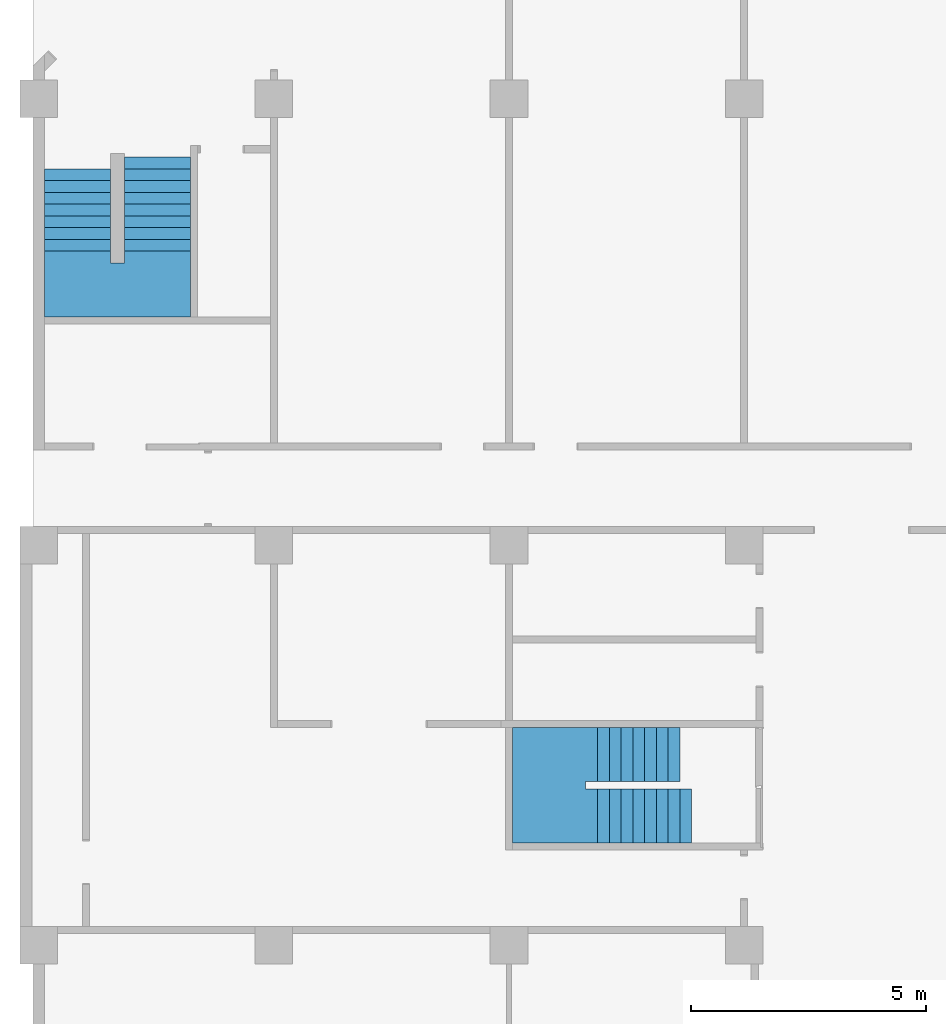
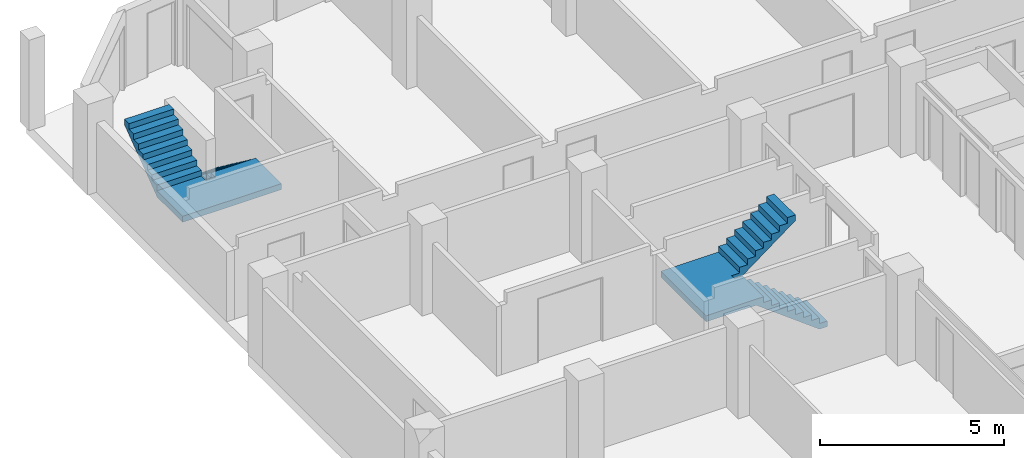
# One storey, part 8 of 9: 2 stairs.
"""IFC2X3 building model written with IfcOpenShell, lengths in millimetres."""

from ifc_helpers import new_model, entity, si_unit, converted_unit, derived_unit, money_unit, direction, frame, origin_with_axes, place, context, subcontext, project, spatial, faceted_brep, material, material_list, element, save


model = new_model("IFC2X3")

# Units and contexts
model_context = context("Model", 3, precision=0.01, world=origin_with_axes(), true_north=direction((0.0, 1.0)))
body_context = subcontext(model_context, "Body", "Model", "MODEL_VIEW")
ifc_project = project(units=[si_unit("LENGTHUNIT", "METRE", prefix="MILLI"), si_unit("AREAUNIT", "SQUARE_METRE"), si_unit("VOLUMEUNIT", "CUBIC_METRE"), converted_unit("PLANEANGLEUNIT", "DEGREE", entity("IfcPlaneAngleMeasure", 0.0174532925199), si_unit("PLANEANGLEUNIT", "RADIAN"), dimensions=[0, 0, 0, 0, 0, 0, 0]), si_unit("SOLIDANGLEUNIT", "STERADIAN"), money_unit("JPY"), converted_unit("TIMEUNIT", "Year", entity("IfcTimeMeasure", 31556926.0), si_unit("TIMEUNIT", "SECOND"), dimensions=[0, 0, 1, 0, 0, 0, 0]), si_unit("MASSUNIT", "GRAM", prefix="KILO"), si_unit("THERMODYNAMICTEMPERATUREUNIT", "DEGREE_CELSIUS"), si_unit("LUMINOUSINTENSITYUNIT", "LUMEN"), si_unit("ENERGYUNIT", "JOULE", prefix="MEGA"), derived_unit("THERMALCONDUCTANCEUNIT", [(si_unit("POWERUNIT", "WATT"), 1), (si_unit("LENGTHUNIT", "METRE"), -1), (si_unit("THERMODYNAMICTEMPERATUREUNIT", "KELVIN"), -1)]), derived_unit("SPECIFICHEATCAPACITYUNIT", [(si_unit("ENERGYUNIT", "JOULE"), 1), (si_unit("MASSUNIT", "GRAM", prefix="KILO"), -1), (si_unit("THERMODYNAMICTEMPERATUREUNIT", "KELVIN"), -1)]), derived_unit("MASSDENSITYUNIT", [(si_unit("MASSUNIT", "GRAM", prefix="KILO"), 1), (si_unit("VOLUMEUNIT", "CUBIC_METRE"), -1)])], contexts=[model_context])

# Site, building, storey
site_placement = place(None, origin_with_axes())
site = spatial("IfcSite", under=ifc_project, at=site_placement, Name="サイト", CompositionType="ELEMENT")
building_placement = place(site_placement, origin_with_axes())
building = spatial("IfcBuilding", under=site, at=building_placement, Name="建築", CompositionType="ELEMENT")
storey_placement = place(building_placement, origin_with_axes())
storey = spatial("IfcBuildingStorey", under=building, at=storey_placement, Name="1FL", CompositionType="ELEMENT", Elevation=0.0)

# Stairs
ifc_material = material(Name="コンクリート")
ifc_material_list = material_list([ifc_material, ifc_material, ifc_material])
stair_1_placement = place(storey_placement, frame((1825.0, 16757.5237799, 0.0), z_axis=(0.0, 0.0, 1.0), x_axis=(1.0, 0.0, 0.0)))
element("IfcStair", 1, at=stair_1_placement, inside=storey, material=ifc_material_list, Name="K2", ShapeType="NOTDEFINED", context=body_context, shape_type="Brep", body=[
    faceted_brep([(0.0, -2000.0, 1487.5), (1400.0, -2000.0, 1487.5), (1400.0, -2000.0, 1500.0), (0.0, -2000.0, 1500.0), (0.0, -2233.33333333, 1487.5), (1400.0, -2233.33333333, 1487.5), (1400.0, -2000.0, 1312.5), (1400.0, -1916.66666667, 1250.0), (1400.0, -1833.33333333, 1187.5), (1400.0, -1750.0, 1125.0), (1400.0, -1666.66666667, 1062.5), (1400.0, -1583.33333333, 1000.0), (1400.0, -1500.0, 937.5), (1400.0, -1416.66666667, 875.0), (1400.0, -1333.33333333, 812.5), (1400.0, -1250.0, 750.0), (1400.0, -1166.66666667, 687.5), (1400.0, -1083.33333333, 625.0), (1400.0, -1000.0, 562.5), (1400.0, -916.666666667, 500.0), (1400.0, -833.333333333, 437.5), (1400.0, -750.0, 375.0), (1400.0, -666.666666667, 312.5), (1400.0, -583.333333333, 250.0), (1400.0, -500.0, 187.5), (1400.0, -416.666666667, 125.0), (1400.0, -333.333333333, 62.5), (1400.0, -250.0, 0.0), (1400.0, 0.0, 0.0), (1400.0, 0.0, 187.5), (1400.0, -250.0, 187.5), (1400.0, -250.0, 375.0), (1400.0, -500.0, 375.0), (1400.0, -500.0, 562.5), (1400.0, -750.0, 562.5), (1400.0, -750.0, 750.0), (1400.0, -1000.0, 750.0), (1400.0, -1000.0, 937.5), (1400.0, -1250.0, 937.5), (1400.0, -1250.0, 1125.0), (1400.0, -1500.0, 1125.0), (1400.0, -1500.0, 1312.5), (1400.0, -1750.0, 1312.5), (1400.0, -1750.0, 1500.0), (0.0, -1750.0, 1500.0), (0.0, -1750.0, 1312.5), (0.0, -1500.0, 1312.5), (0.0, -1500.0, 1125.0), (0.0, -1250.0, 1125.0), (0.0, -1250.0, 937.5), (0.0, -1000.0, 937.5), (0.0, -1000.0, 750.0), (0.0, -750.0, 750.0), (0.0, -750.0, 562.5), (0.0, -500.0, 562.5), (0.0, -500.0, 375.0), (0.0, -250.0, 375.0), (0.0, -250.0, 187.5), (0.0, 0.0, 187.5), (0.0, 0.0, 0.0), (0.0, -250.0, 0.0), (0.0, -333.333333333, 62.5), (0.0, -416.666666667, 125.0), (0.0, -500.0, 187.5), (0.0, -583.333333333, 250.0), (0.0, -666.666666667, 312.5), (0.0, -750.0, 375.0), (0.0, -833.333333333, 437.5), (0.0, -916.666666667, 500.0), (0.0, -1000.0, 562.5), (0.0, -1083.33333333, 625.0), (0.0, -1166.66666667, 687.5), (0.0, -1250.0, 750.0), (0.0, -1333.33333333, 812.5), (0.0, -1416.66666667, 875.0), (0.0, -1500.0, 937.5), (0.0, -1583.33333333, 1000.0), (0.0, -1666.66666667, 1062.5), (0.0, -1750.0, 1125.0), (0.0, -1833.33333333, 1187.5), (0.0, -1916.66666667, 1250.0), (0.0, -2000.0, 1312.5)], [[[0, 1, 2, 3]], [[1, 0, 4, 5]], [[6, 7, 8, 9, 10, 11, 12, 13, 14, 15, 16, 17, 18, 19, 20, 21, 22, 23, 24, 25, 26, 27, 28, 29, 30, 31, 32, 33, 34, 35, 36, 37, 38, 39, 40, 41, 42, 43, 2, 1, 5]], [[44, 3, 2, 43]], [[0, 3, 44, 45, 46, 47, 48, 49, 50, 51, 52, 53, 54, 55, 56, 57, 58, 59, 60, 61, 62, 63, 64, 65, 66, 67, 68, 69, 70, 71, 72, 73, 74, 75, 76, 77, 78, 79, 80, 81, 4]], [[81, 80, 7, 6, 5, 4]], [[79, 8, 7, 80]], [[78, 9, 8, 79]], [[77, 10, 9, 78]], [[76, 11, 10, 77]], [[75, 12, 11, 76]], [[74, 13, 12, 75]], [[73, 14, 13, 74]], [[72, 15, 14, 73]], [[71, 16, 15, 72]], [[70, 17, 16, 71]], [[69, 18, 17, 70]], [[68, 19, 18, 69]], [[67, 20, 19, 68]], [[66, 21, 20, 67]], [[65, 22, 21, 66]], [[64, 23, 22, 65]], [[63, 24, 23, 64]], [[62, 25, 24, 63]], [[61, 26, 25, 62]], [[60, 27, 26, 61]], [[59, 28, 27, 60]], [[28, 59, 58, 29]], [[29, 58, 57, 30]], [[56, 31, 30, 57]], [[31, 56, 55, 32]], [[54, 33, 32, 55]], [[33, 54, 53, 34]], [[52, 35, 34, 53]], [[35, 52, 51, 36]], [[50, 37, 36, 51]], [[37, 50, 49, 38]], [[48, 39, 38, 49]], [[39, 48, 47, 40]], [[46, 41, 40, 47]], [[41, 46, 45, 42]], [[44, 43, 42, 45]]]),
    faceted_brep([(-300.0, -2016.66666667, 1487.5), (-300.0, -2016.66666667, 1687.5), (-300.0, -2250.0, 1687.5), (-300.0, -2250.0, 1487.5), (-1700.0, -2016.66666667, 1687.5), (-1700.0, -2016.66666667, 1487.5), (-1700.0, -3400.0, 1687.5), (1400.0, -3400.0, 1687.5), (1400.0, -2000.0, 1687.5), (0.0, -2000.0, 1687.5), (0.0, -2250.0, 1687.5), (0.0, -2250.0, 1487.5), (0.0, -2000.0, 1487.5), (1400.0, -2000.0, 1487.5), (1400.0, -3400.0, 1487.5), (-1700.0, -3400.0, 1487.5)], [[[0, 1, 2, 3]], [[4, 1, 0, 5]], [[1, 4, 6, 7, 8, 9, 10, 2]], [[10, 11, 3, 2]], [[5, 0, 3, 11, 12, 13, 14, 15]], [[4, 5, 15, 6]], [[6, 15, 14, 7]], [[7, 14, 13, 8]], [[8, 13, 12, 9]], [[9, 12, 11, 10]]]),
    faceted_brep([(-1700.0, -2000.0, 1875.0), (-1700.0, -2000.0, 1687.5), (-300.0, -2000.0, 1687.5), (-300.0, -2000.0, 1875.0), (-1700.0, -2016.66666667, 1687.5), (-1700.0, -1750.0, 1875.0), (-1700.0, -1750.0, 2062.5), (-1700.0, -1500.0, 2062.5), (-1700.0, -1500.0, 2250.0), (-1700.0, -1250.0, 2250.0), (-1700.0, -1250.0, 2437.5), (-1700.0, -1000.0, 2437.5), (-1700.0, -1000.0, 2625.0), (-1700.0, -750.0, 2625.0), (-1700.0, -750.0, 2812.5), (-1700.0, -500.0, 2812.5), (-1700.0, -500.0, 3000.0), (-1700.0, -250.0, 3000.0), (-1700.0, -250.0, 2812.5), (-1700.0, -333.333333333, 2750.0), (-1700.0, -416.666666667, 2687.5), (-1700.0, -500.0, 2625.0), (-1700.0, -583.333333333, 2562.5), (-1700.0, -666.666666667, 2500.0), (-1700.0, -750.0, 2437.5), (-1700.0, -833.333333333, 2375.0), (-1700.0, -916.666666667, 2312.5), (-1700.0, -1000.0, 2250.0), (-1700.0, -1083.33333333, 2187.5), (-1700.0, -1166.66666667, 2125.0), (-1700.0, -1250.0, 2062.5), (-1700.0, -1333.33333333, 2000.0), (-1700.0, -1416.66666667, 1937.5), (-1700.0, -1500.0, 1875.0), (-1700.0, -1583.33333333, 1812.5), (-1700.0, -1666.66666667, 1750.0), (-1700.0, -1750.0, 1687.5), (-1700.0, -1833.33333333, 1625.0), (-1700.0, -1916.66666667, 1562.5), (-1700.0, -2000.0, 1500.0), (-1700.0, -2016.66666667, 1487.5), (-300.0, -2016.66666667, 1687.5), (-300.0, -2016.66666667, 1487.5), (-300.0, -2000.0, 1500.0), (-300.0, -1916.66666667, 1562.5), (-300.0, -1833.33333333, 1625.0), (-300.0, -1750.0, 1687.5), (-300.0, -1666.66666667, 1750.0), (-300.0, -1583.33333333, 1812.5), (-300.0, -1500.0, 1875.0), (-300.0, -1416.66666667, 1937.5), (-300.0, -1333.33333333, 2000.0), (-300.0, -1250.0, 2062.5), (-300.0, -1166.66666667, 2125.0), (-300.0, -1083.33333333, 2187.5), (-300.0, -1000.0, 2250.0), (-300.0, -916.666666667, 2312.5), (-300.0, -833.333333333, 2375.0), (-300.0, -750.0, 2437.5), (-300.0, -666.666666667, 2500.0), (-300.0, -583.333333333, 2562.5), (-300.0, -500.0, 2625.0), (-300.0, -416.666666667, 2687.5), (-300.0, -333.333333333, 2750.0), (-300.0, -250.0, 2812.5), (-300.0, -250.0, 3000.0), (-300.0, -500.0, 3000.0), (-300.0, -500.0, 2812.5), (-300.0, -750.0, 2812.5), (-300.0, -750.0, 2625.0), (-300.0, -1000.0, 2625.0), (-300.0, -1000.0, 2437.5), (-300.0, -1250.0, 2437.5), (-300.0, -1250.0, 2250.0), (-300.0, -1500.0, 2250.0), (-300.0, -1500.0, 2062.5), (-300.0, -1750.0, 2062.5), (-300.0, -1750.0, 1875.0)], [[[0, 1, 2, 3]], [[4, 1, 0, 5, 6, 7, 8, 9, 10, 11, 12, 13, 14, 15, 16, 17, 18, 19, 20, 21, 22, 23, 24, 25, 26, 27, 28, 29, 30, 31, 32, 33, 34, 35, 36, 37, 38, 39, 40]], [[41, 2, 1, 4]], [[42, 43, 44, 45, 46, 47, 48, 49, 50, 51, 52, 53, 54, 55, 56, 57, 58, 59, 60, 61, 62, 63, 64, 65, 66, 67, 68, 69, 70, 71, 72, 73, 74, 75, 76, 77, 3, 2, 41]], [[5, 0, 3, 77]], [[77, 76, 6, 5]], [[7, 6, 76, 75]], [[75, 74, 8, 7]], [[9, 8, 74, 73]], [[73, 72, 10, 9]], [[11, 10, 72, 71]], [[71, 70, 12, 11]], [[13, 12, 70, 69]], [[69, 68, 14, 13]], [[15, 14, 68, 67]], [[67, 66, 16, 15]], [[16, 66, 65, 17]], [[17, 65, 64, 18]], [[19, 18, 64, 63]], [[20, 19, 63, 62]], [[21, 20, 62, 61]], [[22, 21, 61, 60]], [[23, 22, 60, 59]], [[24, 23, 59, 58]], [[25, 24, 58, 57]], [[26, 25, 57, 56]], [[27, 26, 56, 55]], [[28, 27, 55, 54]], [[29, 28, 54, 53]], [[30, 29, 53, 52]], [[31, 30, 52, 51]], [[32, 31, 51, 50]], [[33, 32, 50, 49]], [[34, 33, 49, 48]], [[35, 34, 48, 47]], [[36, 35, 47, 46]], [[37, 36, 46, 45]], [[38, 37, 45, 44]], [[44, 43, 39, 38]], [[40, 39, 43, 42]], [[40, 42, 41, 4]]]),
])
stair_2_placement = place(storey_placement, frame((13881.205244, 3325.0, 0.0), z_axis=(0.0, 0.0, 1.0), x_axis=(1.0, 0.0, 0.0)))
element("IfcStair", 2, at=stair_2_placement, inside=storey, material=ifc_material_list, Name="K1", ShapeType="NOTDEFINED", context=body_context, shape_type="Brep", body=[
    faceted_brep([(-2000.0, 0.0, 1487.5), (-2000.0, -1150.0, 1487.5), (-2000.0, -1150.0, 1500.0), (-2000.0, 0.0, 1500.0), (-2233.33333333, 0.0, 1487.5), (-2233.33333333, -1150.0, 1487.5), (-2000.0, -1150.0, 1312.5), (-1916.66666667, -1150.0, 1250.0), (-1833.33333333, -1150.0, 1187.5), (-1750.0, -1150.0, 1125.0), (-1666.66666667, -1150.0, 1062.5), (-1583.33333333, -1150.0, 1000.0), (-1500.0, -1150.0, 937.5), (-1416.66666667, -1150.0, 875.0), (-1333.33333333, -1150.0, 812.5), (-1250.0, -1150.0, 750.0), (-1166.66666667, -1150.0, 687.5), (-1083.33333333, -1150.0, 625.0), (-1000.0, -1150.0, 562.5), (-916.666666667, -1150.0, 500.0), (-833.333333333, -1150.0, 437.5), (-750.0, -1150.0, 375.0), (-666.666666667, -1150.0, 312.5), (-583.333333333, -1150.0, 250.0), (-500.0, -1150.0, 187.5), (-416.666666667, -1150.0, 125.0), (-333.333333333, -1150.0, 62.5), (-250.0, -1150.0, 0.0), (0.0, -1150.0, 0.0), (0.0, -1150.0, 187.5), (-250.0, -1150.0, 187.5), (-250.0, -1150.0, 375.0), (-500.0, -1150.0, 375.0), (-500.0, -1150.0, 562.5), (-750.0, -1150.0, 562.5), (-750.0, -1150.0, 750.0), (-1000.0, -1150.0, 750.0), (-1000.0, -1150.0, 937.5), (-1250.0, -1150.0, 937.5), (-1250.0, -1150.0, 1125.0), (-1500.0, -1150.0, 1125.0), (-1500.0, -1150.0, 1312.5), (-1750.0, -1150.0, 1312.5), (-1750.0, -1150.0, 1500.0), (-1750.0, 0.0, 1500.0), (-1750.0, 0.0, 1312.5), (-1500.0, 0.0, 1312.5), (-1500.0, 0.0, 1125.0), (-1250.0, 0.0, 1125.0), (-1250.0, 0.0, 937.5), (-1000.0, 0.0, 937.5), (-1000.0, 0.0, 750.0), (-750.0, 0.0, 750.0), (-750.0, 0.0, 562.5), (-500.0, 0.0, 562.5), (-500.0, 0.0, 375.0), (-250.0, 0.0, 375.0), (-250.0, 0.0, 187.5), (0.0, 0.0, 187.5), (0.0, 0.0, 0.0), (-250.0, 0.0, 0.0), (-333.333333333, 0.0, 62.5), (-416.666666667, 0.0, 125.0), (-500.0, 0.0, 187.5), (-583.333333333, 0.0, 250.0), (-666.666666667, 0.0, 312.5), (-750.0, 0.0, 375.0), (-833.333333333, 0.0, 437.5), (-916.666666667, 0.0, 500.0), (-1000.0, 0.0, 562.5), (-1083.33333333, 0.0, 625.0), (-1166.66666667, 0.0, 687.5), (-1250.0, 0.0, 750.0), (-1333.33333333, 0.0, 812.5), (-1416.66666667, 0.0, 875.0), (-1500.0, 0.0, 937.5), (-1583.33333333, 0.0, 1000.0), (-1666.66666667, 0.0, 1062.5), (-1750.0, 0.0, 1125.0), (-1833.33333333, 0.0, 1187.5), (-1916.66666667, 0.0, 1250.0), (-2000.0, 0.0, 1312.5)], [[[0, 1, 2, 3]], [[1, 0, 4, 5]], [[6, 7, 8, 9, 10, 11, 12, 13, 14, 15, 16, 17, 18, 19, 20, 21, 22, 23, 24, 25, 26, 27, 28, 29, 30, 31, 32, 33, 34, 35, 36, 37, 38, 39, 40, 41, 42, 43, 2, 1, 5]], [[44, 3, 2, 43]], [[0, 3, 44, 45, 46, 47, 48, 49, 50, 51, 52, 53, 54, 55, 56, 57, 58, 59, 60, 61, 62, 63, 64, 65, 66, 67, 68, 69, 70, 71, 72, 73, 74, 75, 76, 77, 78, 79, 80, 81, 4]], [[81, 80, 7, 6, 5, 4]], [[7, 80, 79, 8]], [[8, 79, 78, 9]], [[9, 78, 77, 10]], [[10, 77, 76, 11]], [[11, 76, 75, 12]], [[12, 75, 74, 13]], [[13, 74, 73, 14]], [[14, 73, 72, 15]], [[15, 72, 71, 16]], [[16, 71, 70, 17]], [[17, 70, 69, 18]], [[18, 69, 68, 19]], [[19, 68, 67, 20]], [[20, 67, 66, 21]], [[21, 66, 65, 22]], [[22, 65, 64, 23]], [[23, 64, 63, 24]], [[24, 63, 62, 25]], [[25, 62, 61, 26]], [[26, 61, 60, 27]], [[60, 59, 28, 27]], [[28, 59, 58, 29]], [[29, 58, 57, 30]], [[56, 31, 30, 57]], [[31, 56, 55, 32]], [[54, 33, 32, 55]], [[33, 54, 53, 34]], [[52, 35, 34, 53]], [[35, 52, 51, 36]], [[50, 37, 36, 51]], [[37, 50, 49, 38]], [[48, 39, 38, 49]], [[39, 48, 47, 40]], [[46, 41, 40, 47]], [[41, 46, 45, 42]], [[44, 43, 42, 45]]]),
    faceted_brep([(-2016.66666667, 150.0, 1687.5), (-2016.66666667, 1300.0, 1687.5), (-3806.20524398, 1300.0, 1687.5), (-3806.20524398, -1150.0, 1687.5), (-2000.0, -1150.0, 1687.5), (-2000.0, 0.0, 1687.5), (-2250.0, 0.0, 1687.5), (-2250.0, 150.0, 1687.5), (-2016.66666667, 1300.0, 1487.5), (-2016.66666667, 150.0, 1487.5), (-3806.20524398, 1300.0, 1487.5), (-3806.20524398, -1150.0, 1487.5), (-2000.0, -1150.0, 1487.5), (-2000.0, 0.0, 1487.5), (-2250.0, 0.0, 1487.5), (-2250.0, 150.0, 1487.5)], [[[0, 1, 2, 3, 4, 5, 6, 7]], [[8, 1, 0, 9]], [[1, 8, 10, 2]], [[2, 10, 11, 3]], [[3, 11, 12, 4]], [[4, 12, 13, 5]], [[5, 13, 14, 6]], [[6, 14, 15, 7]], [[9, 0, 7, 15]], [[8, 9, 15, 14, 13, 12, 11, 10]]]),
    faceted_brep([(-1916.66666667, 150.0, 1562.5), (-2000.0, 150.0, 1500.0), (-2000.0, 1300.0, 1500.0), (-1916.66666667, 1300.0, 1562.5), (-2016.66666667, 150.0, 1487.5), (-1833.33333333, 150.0, 1625.0), (-1750.0, 150.0, 1687.5), (-1666.66666667, 150.0, 1750.0), (-1583.33333333, 150.0, 1812.5), (-1500.0, 150.0, 1875.0), (-1416.66666667, 150.0, 1937.5), (-1333.33333333, 150.0, 2000.0), (-1250.0, 150.0, 2062.5), (-1166.66666667, 150.0, 2125.0), (-1083.33333333, 150.0, 2187.5), (-1000.0, 150.0, 2250.0), (-916.666666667, 150.0, 2312.5), (-833.333333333, 150.0, 2375.0), (-750.0, 150.0, 2437.5), (-666.666666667, 150.0, 2500.0), (-583.333333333, 150.0, 2562.5), (-500.0, 150.0, 2625.0), (-416.666666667, 150.0, 2687.5), (-333.333333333, 150.0, 2750.0), (-250.0, 150.0, 2812.5), (-250.0, 150.0, 3000.0), (-500.0, 150.0, 3000.0), (-500.0, 150.0, 2812.5), (-750.0, 150.0, 2812.5), (-750.0, 150.0, 2625.0), (-1000.0, 150.0, 2625.0), (-1000.0, 150.0, 2437.5), (-1250.0, 150.0, 2437.5), (-1250.0, 150.0, 2250.0), (-1500.0, 150.0, 2250.0), (-1500.0, 150.0, 2062.5), (-1750.0, 150.0, 2062.5), (-1750.0, 150.0, 1875.0), (-2000.0, 150.0, 1875.0), (-2000.0, 150.0, 1687.5), (-2016.66666667, 150.0, 1687.5), (-2016.66666667, 1300.0, 1487.5), (-2016.66666667, 1300.0, 1687.5), (-2000.0, 1300.0, 1687.5), (-2000.0, 1300.0, 1875.0), (-1750.0, 1300.0, 1875.0), (-1750.0, 1300.0, 2062.5), (-1500.0, 1300.0, 2062.5), (-1500.0, 1300.0, 2250.0), (-1250.0, 1300.0, 2250.0), (-1250.0, 1300.0, 2437.5), (-1000.0, 1300.0, 2437.5), (-1000.0, 1300.0, 2625.0), (-750.0, 1300.0, 2625.0), (-750.0, 1300.0, 2812.5), (-500.0, 1300.0, 2812.5), (-500.0, 1300.0, 3000.0), (-250.0, 1300.0, 3000.0), (-250.0, 1300.0, 2812.5), (-333.333333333, 1300.0, 2750.0), (-416.666666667, 1300.0, 2687.5), (-500.0, 1300.0, 2625.0), (-583.333333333, 1300.0, 2562.5), (-666.666666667, 1300.0, 2500.0), (-750.0, 1300.0, 2437.5), (-833.333333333, 1300.0, 2375.0), (-916.666666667, 1300.0, 2312.5), (-1000.0, 1300.0, 2250.0), (-1083.33333333, 1300.0, 2187.5), (-1166.66666667, 1300.0, 2125.0), (-1250.0, 1300.0, 2062.5), (-1333.33333333, 1300.0, 2000.0), (-1416.66666667, 1300.0, 1937.5), (-1500.0, 1300.0, 1875.0), (-1583.33333333, 1300.0, 1812.5), (-1666.66666667, 1300.0, 1750.0), (-1750.0, 1300.0, 1687.5), (-1833.33333333, 1300.0, 1625.0)], [[[0, 1, 2, 3]], [[4, 1, 0, 5, 6, 7, 8, 9, 10, 11, 12, 13, 14, 15, 16, 17, 18, 19, 20, 21, 22, 23, 24, 25, 26, 27, 28, 29, 30, 31, 32, 33, 34, 35, 36, 37, 38, 39, 40]], [[41, 2, 1, 4]], [[42, 43, 44, 45, 46, 47, 48, 49, 50, 51, 52, 53, 54, 55, 56, 57, 58, 59, 60, 61, 62, 63, 64, 65, 66, 67, 68, 69, 70, 71, 72, 73, 74, 75, 76, 77, 3, 2, 41]], [[5, 0, 3, 77]], [[6, 5, 77, 76]], [[7, 6, 76, 75]], [[8, 7, 75, 74]], [[9, 8, 74, 73]], [[10, 9, 73, 72]], [[11, 10, 72, 71]], [[12, 11, 71, 70]], [[13, 12, 70, 69]], [[14, 13, 69, 68]], [[15, 14, 68, 67]], [[16, 15, 67, 66]], [[17, 16, 66, 65]], [[18, 17, 65, 64]], [[19, 18, 64, 63]], [[20, 19, 63, 62]], [[21, 20, 62, 61]], [[22, 21, 61, 60]], [[23, 22, 60, 59]], [[23, 59, 58, 24]], [[57, 25, 24, 58]], [[56, 26, 25, 57]], [[27, 26, 56, 55]], [[55, 54, 28, 27]], [[29, 28, 54, 53]], [[53, 52, 30, 29]], [[31, 30, 52, 51]], [[51, 50, 32, 31]], [[33, 32, 50, 49]], [[49, 48, 34, 33]], [[35, 34, 48, 47]], [[47, 46, 36, 35]], [[37, 36, 46, 45]], [[45, 44, 38, 37]], [[44, 43, 39, 38]], [[40, 39, 43, 42]], [[41, 4, 40, 42]]]),
])

save(model, "model.ifc")
